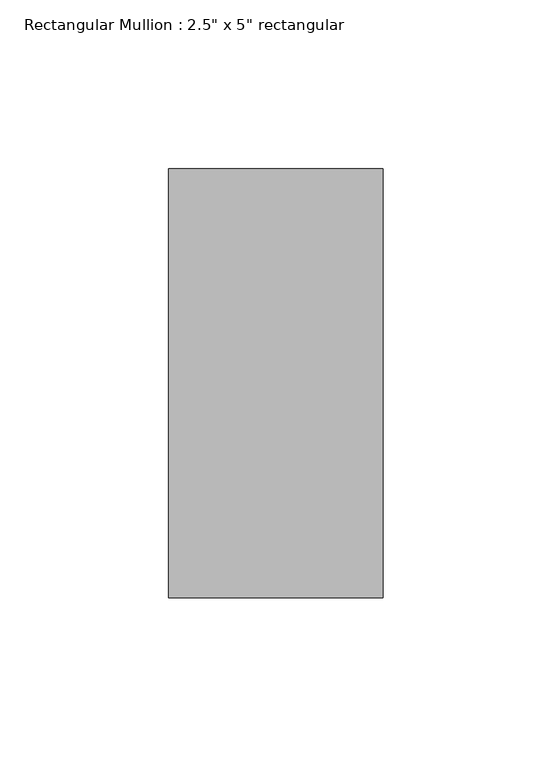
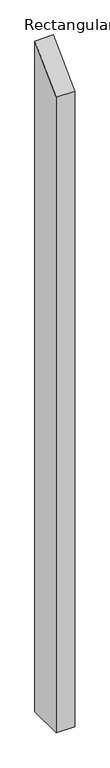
"""IFC4 building model written with IfcOpenShell, lengths in millimetres: member geometry."""

import ifcopenshell
import ifcopenshell.guid

model = None  # the IFC model being written
_history = None  # IfcOwnerHistory: only IFC2X3 demands one
_inside = {}  # id of a spatial element -> (the spatial element, [elements in it])
_under = {}  # id of a project, library or spatial element -> (it, [spatial elements below it])
_declared = {}  # id of a project -> (the project, [libraries it declares])
_typed = {}  # id of a type object -> (the type object, [elements of that type])
_made_of = {}  # id of a material, layer set ... -> (it, [elements and type objects made of it])


def new_model(schema):
    """Start an empty IFC model of exactly this schema.

    Asked for "IFC4X3", IfcOpenShell would pick the latest addendum, in which some entities
    have other attributes; the version numbers below select the first issue.
    IFC2X3 requires an IfcOwnerHistory on every rooted entity: one is made here for all.
    """
    global model, _history
    if schema == "IFC4X3":
        model = ifcopenshell.file(schema_version=(4, 3, 0, 0))
    else:
        model = ifcopenshell.file(schema=schema)
    _inside.clear()
    _under.clear()
    _declared.clear()
    _typed.clear()
    _made_of.clear()
    _history = None
    if model.schema == "IFC2X3":
        org = make("IfcOrganization", Name="unknown")
        user = make(
            "IfcPersonAndOrganization",
            ThePerson=make("IfcPerson", FamilyName="unknown"),
            TheOrganization=org,
        )
        app = make(
            "IfcApplication",
            ApplicationDeveloper=org,
            Version="unknown",
            ApplicationFullName="unknown",
            ApplicationIdentifier="unknown",
        )
        _history = make(
            "IfcOwnerHistory",
            OwningUser=user,
            OwningApplication=app,
            ChangeAction="ADDED",
            CreationDate=0,
        )
    return model


def make(cls, **values):
    """One entity of the class cls with the attributes given. An attribute that is None is left unset."""
    return model.create_entity(
        cls, **{name: value for name, value in values.items() if value is not None}
    )


def rooted(cls, **values):
    """An entity with a GlobalId (a new one), such as an element, a storey or a relation."""
    return make(cls, GlobalId=ifcopenshell.guid.new(), OwnerHistory=_history, **values)


def si_unit(unit_type, name, prefix=None):
    """IfcSIUnit, for example si_unit("LENGTHUNIT", "METRE", prefix="MILLI")."""
    return make("IfcSIUnit", UnitType=unit_type, Prefix=prefix, Name=name)


def assignment(units):
    """IfcUnitAssignment: the units of a project."""
    return None if units is None else make("IfcUnitAssignment", Units=units)


def point(xyz):
    """IfcCartesianPoint."""
    return None if xyz is None else make("IfcCartesianPoint", Coordinates=xyz)


def direction(xyz):
    """IfcDirection."""
    return None if xyz is None else make("IfcDirection", DirectionRatios=xyz)


def frame(location, z_axis=None, x_axis=None):
    """IfcAxis2Placement3D, a coordinate frame: its origin and axes. An axis left out is left unset."""
    return make(
        "IfcAxis2Placement3D",
        Location=point(location),
        Axis=direction(z_axis),
        RefDirection=direction(x_axis),
    )


def origin():
    """The frame at (0, 0, 0) with its axes left unset."""
    return frame((0.0, 0.0, 0.0))


def place(relative_to, where):
    """IfcLocalPlacement: puts the frame where relative to a parent placement (None: the world)."""
    return make(
        "IfcLocalPlacement", PlacementRelTo=relative_to, RelativePlacement=where
    )


def context(
    kind, dimensions, precision=None, world=None, true_north=None, identifier=None
):
    """IfcGeometricRepresentationContext, for example the 3D "Model" context."""
    return make(
        "IfcGeometricRepresentationContext",
        ContextIdentifier=identifier,
        ContextType=kind,
        CoordinateSpaceDimension=dimensions,
        Precision=precision,
        WorldCoordinateSystem=world,
        TrueNorth=true_north,
    )


def project(units=None, contexts=None):
    """IfcProject with its units and contexts."""
    return rooted(
        "IfcProject",
        Name="project",
        RepresentationContexts=contexts,
        UnitsInContext=assignment(units),
    )


def spatial(cls, under=None, at=None, **own):
    """A site, building, storey or space (cls), placed at a placement, below another one or the project."""
    s = rooted(cls, ObjectPlacement=at, **own)
    if under is not None:
        _under.setdefault(under.id(), (under, []))[1].append(s)
    return s


def faces_of(points, faces, orient=None, outer=None):
    """IfcFace entities. A face is a list of loops; a loop is a list of indices into points, from 0.

    orient and outer hold one flag for each loop. By default every Orientation is true, the
    first loop of a face is its IfcFaceOuterBound and the others are IfcFaceBound.
    """
    made = []
    for i, loops in enumerate(faces):
        bounds = []
        for j, loop in enumerate(loops):
            is_outer = j == 0 if outer is None else outer[i][j]
            bounds.append(
                make(
                    "IfcFaceOuterBound" if is_outer else "IfcFaceBound",
                    Bound=make("IfcPolyLoop", Polygon=[points[k] for k in loop]),
                    Orientation=True if orient is None else orient[i][j],
                )
            )
        made.append(make("IfcFace", Bounds=bounds))
    return made


def faceted_brep(points, faces, orient=None, outer=None, voids=None):
    """IfcFacetedBrep: a solid bounded by flat faces; with voids (closed shells), ...WithVoids."""
    shared = [point(p) for p in points]
    hull = make("IfcClosedShell", CfsFaces=faces_of(shared, faces, orient, outer))
    if voids is None:
        return make("IfcFacetedBrep", Outer=hull)
    return make(
        "IfcFacetedBrepWithVoids",
        Outer=hull,
        Voids=[
            make(cls, CfsFaces=faces_of(shared, fs, o, b)) for cls, fs, o, b in voids
        ],
    )


def shape(context_of_items, identifier, shape_type, items):
    """IfcShapeRepresentation: the items that make up one representation, for example the "Body"."""
    return make(
        "IfcShapeRepresentation",
        ContextOfItems=context_of_items,
        RepresentationIdentifier=identifier,
        RepresentationType=shape_type,
        Items=items,
    )


def source(mapping_origin, context_of_items, identifier, shape_type, items):
    """IfcRepresentationMap: a shape defined once, which mapped items show again and again."""
    return make(
        "IfcRepresentationMap",
        MappingOrigin=mapping_origin,
        MappedRepresentation=shape(context_of_items, identifier, shape_type, items),
    )


def transform(
    local_origin,
    x_axis=None,
    y_axis=None,
    z_axis=None,
    scale=None,
    scale2=None,
    scale3=None,
    uniform=True,
):
    """IfcCartesianTransformationOperator3D, or its non-uniform kind. x_axis, y_axis, z_axis: its Axis1, 2, 3."""
    if uniform:
        return make(
            "IfcCartesianTransformationOperator3D",
            Axis1=direction(x_axis),
            Axis2=direction(y_axis),
            LocalOrigin=point(local_origin),
            Scale=scale,
            Axis3=direction(z_axis),
        )
    return make(
        "IfcCartesianTransformationOperator3DnonUniform",
        Axis1=direction(x_axis),
        Axis2=direction(y_axis),
        LocalOrigin=point(local_origin),
        Scale=scale,
        Axis3=direction(z_axis),
        Scale2=scale2,
        Scale3=scale3,
    )


def mapped(mapping_source, mapping_target):
    """IfcMappedItem: shows the shape of a source again, moved by a transform."""
    return make(
        "IfcMappedItem", MappingSource=mapping_source, MappingTarget=mapping_target
    )


def made_of(thing, what):
    """Note that an element or type object is made of a material, layer set ...; save() writes the relation."""
    if what is not None:
        _made_of.setdefault(what.id(), (what, []))[1].append(thing)
    return thing


def element(
    cls,
    number,
    at=None,
    inside=None,
    cuts=None,
    type_object=None,
    material=None,
    context=None,
    identifier="Body",
    shape_type=None,
    held_by="IfcProductDefinitionShape",
    body=None,
    shapes=None,
    **own,
):
    """One element of the class cls, such as IfcWall. Its Tag is "e" and its number.

    at: its placement. inside: the storey or other place that contains it. cuts: it is an
    opening in that element (IfcRelVoidsElement). A single representation is given by context,
    identifier, shape_type and body (its items); several are given by shapes. held_by: the class
    of the entity that holds the representations. save() writes the other relations.
    """
    e = rooted(cls, Tag="e%d" % number, ObjectPlacement=at, **own)
    if body is not None:
        shapes = [shape(context, identifier, shape_type, body)]
    if shapes is not None:
        e.Representation = make(held_by, Representations=shapes)
    if inside is not None:
        _inside.setdefault(inside.id(), (inside, []))[1].append(e)
    if cuts is not None:
        rooted(
            "IfcRelVoidsElement", RelatingBuildingElement=cuts, RelatedOpeningElement=e
        )
    if type_object is not None:
        _typed.setdefault(type_object.id(), (type_object, []))[1].append(e)
    return made_of(e, material)


def aggregate(whole, parts):
    """IfcRelAggregates: a whole, such as a stair, and the parts it consists of."""
    return rooted("IfcRelAggregates", RelatingObject=whole, RelatedObjects=parts)


def save(model, path):
    """Write the relations noted so far, then the file.

    IfcRelAggregates (storeys below a building ...), IfcRelContainedInSpatialStructure (elements
    in a storey), IfcRelDefinesByType, IfcRelAssociatesMaterial and IfcRelDeclares: one each for
    every whole, place, type object, material and project.
    """
    for whole, parts in _under.values():
        aggregate(whole, parts)
    for where, things in _inside.values():
        rooted(
            "IfcRelContainedInSpatialStructure",
            RelatedElements=things,
            RelatingStructure=where,
        )
    for kind, things in _typed.values():
        rooted("IfcRelDefinesByType", RelatedObjects=things, RelatingType=kind)
    for what, things in _made_of.values():
        rooted("IfcRelAssociatesMaterial", RelatedObjects=things, RelatingMaterial=what)
    for by, libraries in _declared.values():
        rooted("IfcRelDeclares", RelatingContext=by, RelatedDefinitions=libraries)
    model.write(path)


def member_c036f4fd(model_context):
    return source(origin(), model_context, "Body", "Brep", [
        faceted_brep([(-63.5, 63.5, 63.5), (0.0, 63.5, 63.5), (0.0, 63.5, -2373.6857006), (-63.5, 63.5, -2372.5789878), (-63.5, -63.5, -63.5), (-63.5, -63.5, -2372.5789878), (0.0, -63.5, -63.5), (0.0, -63.5, -2373.6857006)], [[[0, 1, 2, 3]], [[4, 0, 3, 5]], [[6, 4, 5, 7]], [[1, 6, 7, 2]], [[1, 0, 4, 6]], [[2, 7, 5, 3]]]),
    ])


if __name__ == "__main__":
    model = new_model("IFC4")
    model_context = context("Model", 3, world=origin())
    ifc_project = project(units=[si_unit("LENGTHUNIT", "METRE", prefix="MILLI")], contexts=[model_context])
    site = spatial("IfcSite", under=ifc_project)
    building = spatial("IfcBuilding", under=site)
    placement = place(None, origin())
    member_shape = member_c036f4fd(model_context)
    element("IfcMember", 1, ObjectType="Rectangular Mullion : 2.5\" x 5\" rectangular", at=placement, inside=building, context=model_context, shape_type="MappedRepresentation", body=[
        mapped(member_shape, transform((0.0, 0.0, 0.0), x_axis=(1.0, 0.0, 0.0), y_axis=(0.0, 1.0, 0.0), z_axis=(0.0, 0.0, 1.0))),
    ])
    save(model, "model.ifc")
